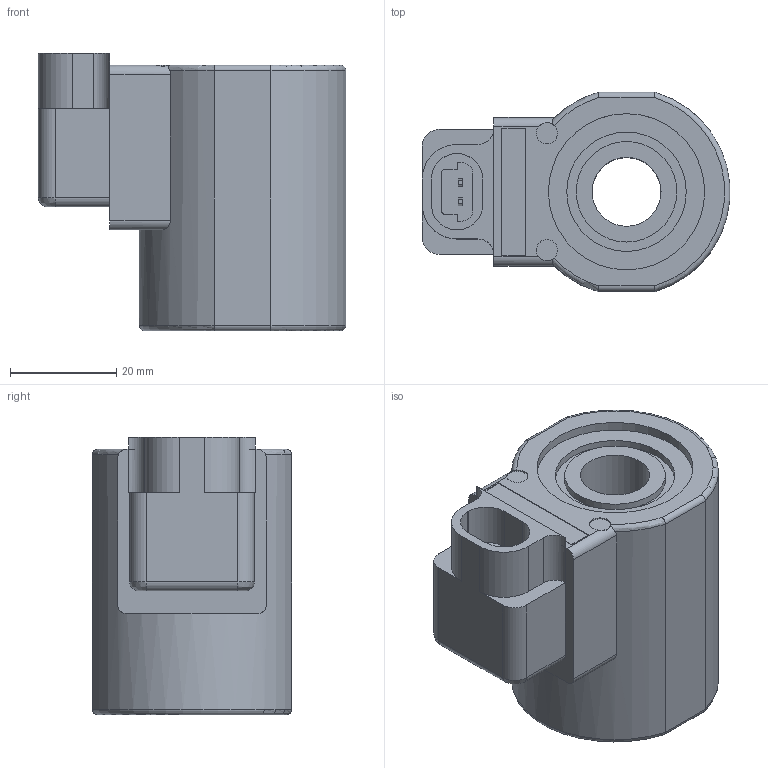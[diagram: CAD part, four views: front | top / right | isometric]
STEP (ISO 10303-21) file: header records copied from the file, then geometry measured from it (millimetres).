
FILE_DESCRIPTION((''),'2;1');
FILE_NAME('Q:\Delta CADD Insertion Codes\3D Solid models\Coils\STEP\DIM.stp','2012-06-04T10:04:30',('Dan'),(''),'Autodesk Inventor 2012','Autodesk Inventor 2012','');
FILE_SCHEMA(('AUTOMOTIVE_DESIGN { 1 0 10303 214 1 1 1 1 }'));
Length unit declared in the file: inch
Products named in the file (1): Part16
Bounding box: 57.9 x 37.5 x 52.26 mm (x, y, z)
Volume: 63439.5 mm3; surface area: 13743.7 mm2
Topology: 1 solids, 1 shells, 104 faces, 258 edges, 167 vertices
Faces by surface type: plane 61, cylinder 36, torus 5, bspline 2
Full cylindrical faces by diameter (mm): 4 x2, 13.005 x1, 18.948 x2, 22.504 x2, 29.439 x2
Entity records: 3275 total; most frequent: CARTESIAN_POINT 801, DIRECTION 505, ORIENTED_EDGE 492, EDGE_CURVE 246, AXIS2_PLACEMENT_3D 174, VERTEX_POINT 164, VECTOR 157, LINE 157
